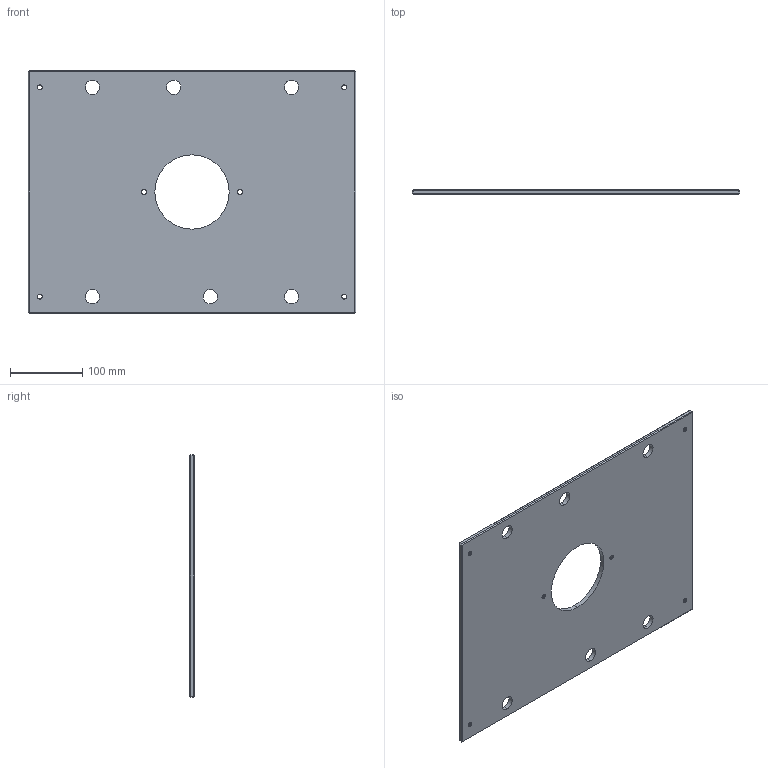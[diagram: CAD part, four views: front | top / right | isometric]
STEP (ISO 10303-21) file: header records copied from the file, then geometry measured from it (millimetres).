
FILE_DESCRIPTION (( 'STEP AP214' ), '1' );
FILE_NAME ('ME-0619-CH-1318-A.STEP', '2020-02-11T12:25:06', ( '' ), ( '' ), 'SwSTEP 2.0', 'SolidWorks 2018', '' );
FILE_SCHEMA (( 'AUTOMOTIVE_DESIGN' ));
Length unit declared in the file: inch
Products named in the file (1): ME-0619-CH-1318-A
Bounding box: 454.02 x 6.35 x 336.55 mm (x, y, z)
Volume: 900127.8 mm3; surface area: 297503 mm2
Topology: 1 solids, 1 shells, 64 faces, 150 edges, 88 vertices
Faces by surface type: cylinder 26, plane 26, cone 12
Entity records: 1902 total; most frequent: DIRECTION 344, CARTESIAN_POINT 303, ORIENTED_EDGE 300, EDGE_CURVE 150, AXIS2_PLACEMENT_3D 129, EDGE_LOOP 90, VERTEX_POINT 88, LINE 86
